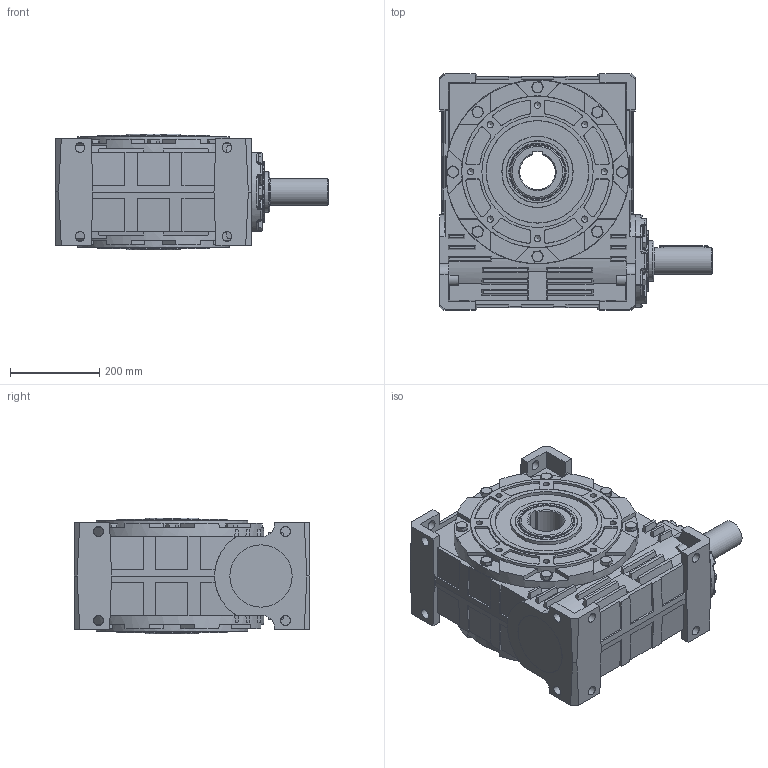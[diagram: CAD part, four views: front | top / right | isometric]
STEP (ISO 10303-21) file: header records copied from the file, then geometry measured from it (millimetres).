
FILE_DESCRIPTION (( 'STEP AP203' ), '1' );
FILE_NAME ('R-200_WBS_3D.STEP', '2018-11-19T06:48:29', ( 'Biuro' ), ( 'Microsoft' ), 'SwSTEP 2.0', 'SolidWorks 2013', '' );
FILE_SCHEMA (( 'CONFIG_CONTROL_DESIGN' ));
Length unit declared in the file: millimetre
Products named in the file (1): R-200_WBS_3D
Bounding box: 613 x 530 x 260 mm (x, y, z)
Volume: 47408740.8 mm3; surface area: 1311378.7 mm2
Topology: 1 solids, 13 shells, 1184 faces, 2949 edges, 1841 vertices
Faces by surface type: plane 680, cone 243, cylinder 131, bspline 61, torus 41, sphere 28
Full cylindrical faces by diameter (mm): 14 x17, 16 x6, 17 x7, 22 x12, 24 x14, 59.6 x1, 60 x1, 90 x2, 110 x1, 120 x2, 140 x3, 250 x2
Entity records: 37450 total; most frequent: CARTESIAN_POINT 10720, ORIENTED_EDGE 5508, DIRECTION 5364, EDGE_CURVE 2754, AXIS2_PLACEMENT_3D 1953, VERTEX_POINT 1773, LINE 1458, VECTOR 1458
